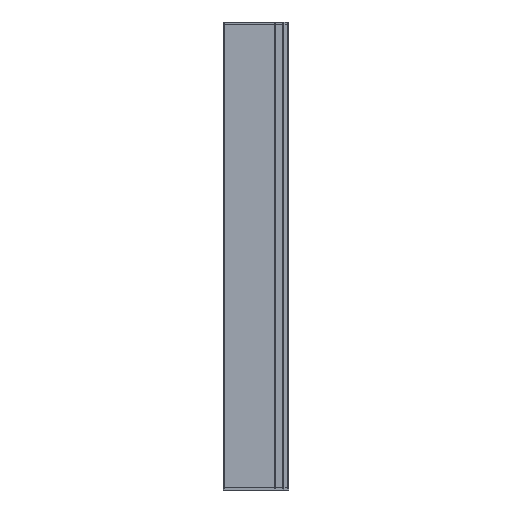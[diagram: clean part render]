
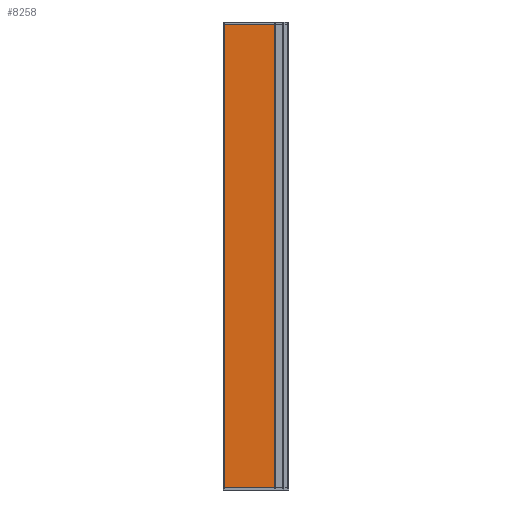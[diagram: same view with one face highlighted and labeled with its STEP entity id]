
A CAD part, left-side view. The second image highlights one B-rep face of the part: STEP entity #8258.
In plain terms, the highlighted planar face has unit normal (-1, 0, 0).
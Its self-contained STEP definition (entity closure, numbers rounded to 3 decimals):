
#666 = CARTESIAN_POINT ( 'NONE',  ( -19., 26.417, -95. ) ) ;
#2153 = LINE ( 'NONE', #19244, #28677 ) ;
#3779 = LINE ( 'NONE', #16571, #27439 ) ;
#4813 = DIRECTION ( 'NONE',  ( 0., -1., 0. ) ) ;
#5102 = DIRECTION ( 'NONE',  ( 0., -1., 0. ) ) ;
#7793 = ORIENTED_EDGE ( 'NONE', *, *, #27514, .T. ) ;
#8258 = ADVANCED_FACE ( 'NONE', ( #25901 ), #8408, .F. ) ;
#8408 = PLANE ( 'NONE',  #21342 ) ;
#9154 = EDGE_CURVE ( 'NONE', #14180, #26259, #2153, .T. ) ;
#9555 = LINE ( 'NONE', #666, #21031 ) ;
#10370 = CARTESIAN_POINT ( 'NONE',  ( -19., 5.9, 95. ) ) ;
#11241 = VECTOR ( 'NONE', #27037, 1000. ) ;
#12811 = DIRECTION ( 'NONE',  ( 0., 0., -1. ) ) ;
#13713 = ORIENTED_EDGE ( 'NONE', *, *, #20851, .F. ) ;
#14180 = VERTEX_POINT ( 'NONE', #29398 ) ;
#16571 = CARTESIAN_POINT ( 'NONE',  ( -19., 26.417, 95. ) ) ;
#16691 = ORIENTED_EDGE ( 'NONE', *, *, #20547, .F. ) ;
#16995 = LINE ( 'NONE', #10370, #11241 ) ;
#19244 = CARTESIAN_POINT ( 'NONE',  ( -19., 26.417, 95. ) ) ;
#19443 = DIRECTION ( 'NONE',  ( 0., 0., -1. ) ) ;
#19504 = DIRECTION ( 'NONE',  ( 1., 0., 0. ) ) ;
#20547 = EDGE_CURVE ( 'NONE', #14180, #24412, #3779, .T. ) ;
#20851 = EDGE_CURVE ( 'NONE', #24412, #28778, #16995, .T. ) ;
#21031 = VECTOR ( 'NONE', #5102, 1000. ) ;
#21150 = EDGE_LOOP ( 'NONE', ( #7793, #13713, #16691, #22309 ) ) ;
#21342 = AXIS2_PLACEMENT_3D ( 'NONE', #26477, #19504, #12811 ) ;
#21487 = CARTESIAN_POINT ( 'NONE',  ( -19., 26.417, -95. ) ) ;
#21496 = CARTESIAN_POINT ( 'NONE',  ( -19., 5.9, 95. ) ) ;
#22309 = ORIENTED_EDGE ( 'NONE', *, *, #9154, .T. ) ;
#24412 = VERTEX_POINT ( 'NONE', #21496 ) ;
#25872 = CARTESIAN_POINT ( 'NONE',  ( -19., 5.9, -95. ) ) ;
#25901 = FACE_OUTER_BOUND ( 'NONE', #21150, .T. ) ;
#26259 = VERTEX_POINT ( 'NONE', #21487 ) ;
#26477 = CARTESIAN_POINT ( 'NONE',  ( -19., 26.417, 95. ) ) ;
#27037 = DIRECTION ( 'NONE',  ( 0., 0., -1. ) ) ;
#27439 = VECTOR ( 'NONE', #4813, 1000. ) ;
#27514 = EDGE_CURVE ( 'NONE', #26259, #28778, #9555, .T. ) ;
#28677 = VECTOR ( 'NONE', #19443, 1000. ) ;
#28778 = VERTEX_POINT ( 'NONE', #25872 ) ;
#29398 = CARTESIAN_POINT ( 'NONE',  ( -19., 26.417, 95. ) ) ;
